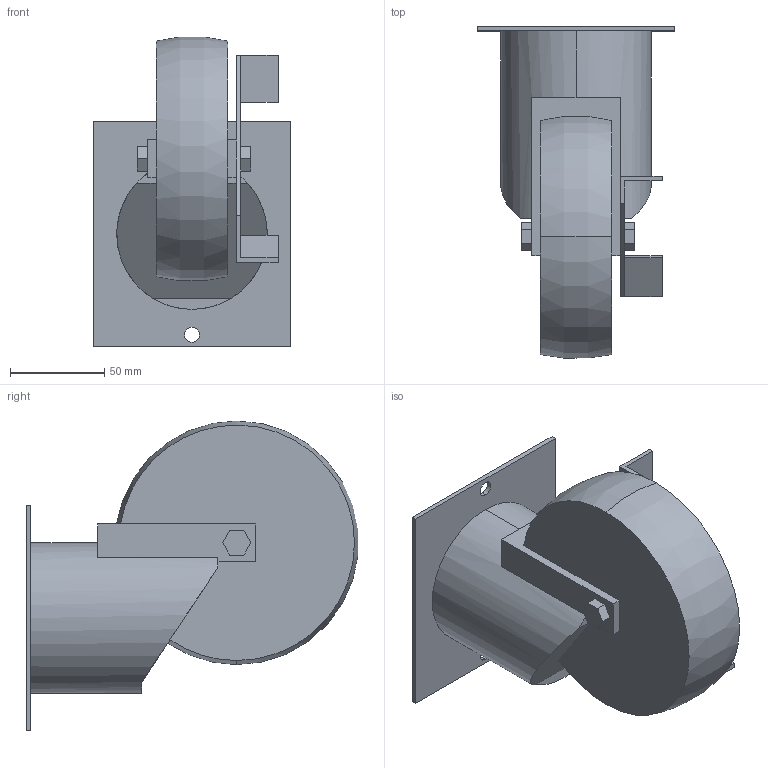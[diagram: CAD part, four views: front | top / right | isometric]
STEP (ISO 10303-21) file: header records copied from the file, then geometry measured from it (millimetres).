
FILE_DESCRIPTION (( 'STEP AP214' ), '1' );
FILE_NAME ('ST-130S_ST-130SVU.step', '2024-02-19T02:11:37', ( 'catia' ), ( 'HP Inc.' ), 'SwSTEP 2.0', 'SolidWorks 2021', '' );
FILE_SCHEMA (( 'AUTOMOTIVE_DESIGN' ));
Length unit declared in the file: millimetre
Products named in the file (1): ST-130S_ST-130SVU
Bounding box: 105 x 176.37 x 164.73 mm (x, y, z)
Volume: 890117.5 mm3; surface area: 86635 mm2
Topology: 1 solids, 1 shells, 60 faces, 159 edges, 104 vertices
Faces by surface type: plane 51, cylinder 6, torus 3
Entity records: 1909 total; most frequent: CARTESIAN_POINT 365, ORIENTED_EDGE 318, DIRECTION 300, EDGE_CURVE 159, LINE 130, VECTOR 130, VERTEX_POINT 104, AXIS2_PLACEMENT_3D 85
